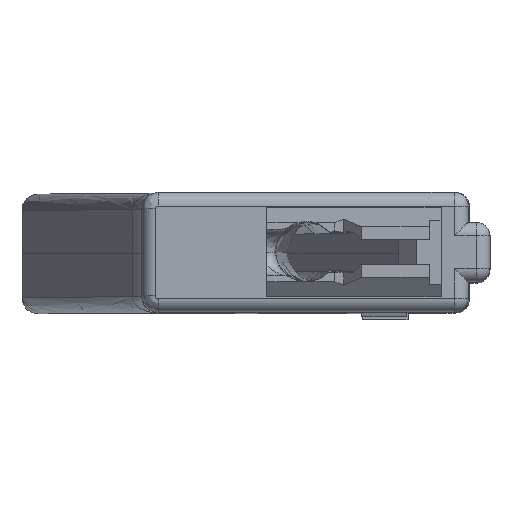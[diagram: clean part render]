
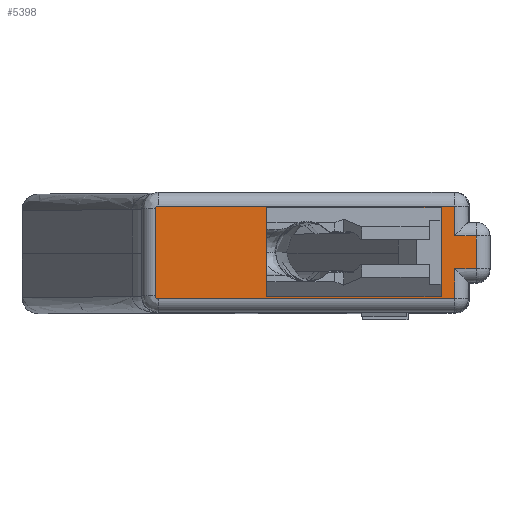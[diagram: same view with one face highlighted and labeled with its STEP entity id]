
A CAD part, top view. The second image highlights one B-rep face of the part: STEP entity #5398.
In plain terms, the highlighted planar face has unit normal (0, 0, 1).
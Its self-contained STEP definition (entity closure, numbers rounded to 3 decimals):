
#46=FACE_BOUND('',#1248,.T.);
#621=CIRCLE('',#5747,0.5);
#659=CIRCLE('',#5843,0.5);
#917=FACE_OUTER_BOUND('',#1247,.T.);
#1247=EDGE_LOOP('',(#4488,#4489,#4490,#4491,#4492,#4493,#4494,#4495,#4496,
#4497));
#1248=EDGE_LOOP('',(#4498,#4499,#4500,#4501));
#1391=LINE('',#7448,#1735);
#1399=LINE('',#7524,#1743);
#1485=LINE('',#9680,#1829);
#1491=LINE('',#9714,#1835);
#1493=LINE('',#9762,#1837);
#1528=LINE('',#10370,#1872);
#1619=LINE('',#12635,#1963);
#1620=LINE('',#12639,#1964);
#1621=LINE('',#12641,#1965);
#1622=LINE('',#12642,#1966);
#1623=LINE('',#12644,#1967);
#1624=LINE('',#12645,#1968);
#1735=VECTOR('',#6094,10.);
#1743=VECTOR('',#6106,10.);
#1829=VECTOR('',#6388,10.);
#1835=VECTOR('',#6424,10.);
#1837=VECTOR('',#6442,10.);
#1872=VECTOR('',#6573,10.);
#1963=VECTOR('',#6876,10.);
#1964=VECTOR('',#6879,2.5);
#1965=VECTOR('',#6880,10.);
#1966=VECTOR('',#6881,10.);
#1967=VECTOR('',#6882,10.);
#1968=VECTOR('',#6883,10.);
#2097=VERTEX_POINT('',#7446);
#2098=VERTEX_POINT('',#7447);
#2110=VERTEX_POINT('',#7521);
#2111=VERTEX_POINT('',#7523);
#2285=VERTEX_POINT('',#9672);
#2287=VERTEX_POINT('',#9678);
#2291=VERTEX_POINT('',#9706);
#2293=VERTEX_POINT('',#9760);
#2338=VERTEX_POINT('',#10368);
#2458=VERTEX_POINT('',#12634);
#2459=VERTEX_POINT('',#12636);
#2460=VERTEX_POINT('',#12638);
#2461=VERTEX_POINT('',#12640);
#2462=VERTEX_POINT('',#12643);
#2631=EDGE_CURVE('',#2097,#2098,#1391,.T.);
#2644=EDGE_CURVE('',#2110,#2111,#1399,.T.);
#2881=EDGE_CURVE('',#2287,#2285,#1485,.T.);
#2895=EDGE_CURVE('',#2291,#2287,#1491,.T.);
#2901=EDGE_CURVE('',#2293,#2291,#1493,.T.);
#2983=EDGE_CURVE('',#2098,#2338,#1528,.T.);
#2994=EDGE_CURVE('',#2111,#2293,#621,.T.);
#3179=EDGE_CURVE('',#2285,#2458,#1619,.T.);
#3180=EDGE_CURVE('',#2459,#2110,#659,.T.);
#3181=EDGE_CURVE('',#2459,#2460,#1620,.T.);
#3182=EDGE_CURVE('',#2461,#2460,#1621,.T.);
#3183=EDGE_CURVE('',#2458,#2461,#1622,.T.);
#3184=EDGE_CURVE('',#2338,#2462,#1623,.T.);
#3185=EDGE_CURVE('',#2462,#2097,#1624,.T.);
#4488=ORIENTED_EDGE('',*,*,#3179,.F.);
#4489=ORIENTED_EDGE('',*,*,#2881,.F.);
#4490=ORIENTED_EDGE('',*,*,#2895,.F.);
#4491=ORIENTED_EDGE('',*,*,#2901,.F.);
#4492=ORIENTED_EDGE('',*,*,#2994,.F.);
#4493=ORIENTED_EDGE('',*,*,#2644,.F.);
#4494=ORIENTED_EDGE('',*,*,#3180,.F.);
#4495=ORIENTED_EDGE('',*,*,#3181,.T.);
#4496=ORIENTED_EDGE('',*,*,#3182,.F.);
#4497=ORIENTED_EDGE('',*,*,#3183,.F.);
#4498=ORIENTED_EDGE('',*,*,#3184,.T.);
#4499=ORIENTED_EDGE('',*,*,#3185,.T.);
#4500=ORIENTED_EDGE('',*,*,#2631,.T.);
#4501=ORIENTED_EDGE('',*,*,#2983,.T.);
#5145=PLANE('',#5842);
#5398=ADVANCED_FACE('',(#917,#46),#5145,.T.);
#5747=AXIS2_PLACEMENT_3D('',#10586,#6594,#6595);
#5842=AXIS2_PLACEMENT_3D('',#12633,#6874,#6875);
#5843=AXIS2_PLACEMENT_3D('',#12637,#6877,#6878);
#6094=DIRECTION('',(0.,1.,0.));
#6106=DIRECTION('',(0.,1.,0.));
#6388=DIRECTION('',(1.,0.,0.));
#6424=DIRECTION('',(0.,-1.,0.));
#6442=DIRECTION('',(1.,0.,0.));
#6573=DIRECTION('',(1.,0.,0.));
#6594=DIRECTION('center_axis',(0.,0.,
-1.));
#6595=DIRECTION('ref_axis',(-0.707,0.707,0.));
#6874=DIRECTION('center_axis',(0.,0.,
1.));
#6875=DIRECTION('ref_axis',(1.,0.,0.));
#6876=DIRECTION('',(0.,-1.,0.));
#6877=DIRECTION('center_axis',(0.,0.,
-1.));
#6878=DIRECTION('ref_axis',(-0.707,-0.707,0.));
#6879=DIRECTION('',(1.,0.,0.));
#6880=DIRECTION('',(0.,-1.,0.));
#6881=DIRECTION('',(-1.,0.,0.));
#6882=DIRECTION('',(0.,-1.,0.));
#6883=DIRECTION('',(-1.,0.,0.));
#7446=CARTESIAN_POINT('',(359.104,-36.087,33.487));
#7447=CARTESIAN_POINT('',(359.104,-19.667,33.487));
#7448=CARTESIAN_POINT('',(359.104,-29.272,33.487));
#7521=CARTESIAN_POINT('',(338.624,-35.877,33.487));
#7523=CARTESIAN_POINT('',(338.624,-19.877,33.487));
#7524=CARTESIAN_POINT('',(338.624,-38.877,33.487));
#9672=CARTESIAN_POINT('',(397.624,-24.877,33.487));
#9678=CARTESIAN_POINT('',(393.624,-24.877,33.487));
#9680=CARTESIAN_POINT('',(392.643,-24.877,33.487));
#9706=CARTESIAN_POINT('',(393.624,-19.377,33.487));
#9714=CARTESIAN_POINT('',(393.624,-38.877,33.487));
#9760=CARTESIAN_POINT('',(339.124,-19.377,33.487));
#9762=CARTESIAN_POINT('',(372.807,-19.377,33.487));
#10368=CARTESIAN_POINT('',(391.124,-19.667,33.487));
#10370=CARTESIAN_POINT('',(374.133,-19.667,33.487));
#10586=CARTESIAN_POINT('Origin',(339.124,-19.877,33.487));
#12633=CARTESIAN_POINT('Origin',(389.163,-38.877,33.487));
#12634=CARTESIAN_POINT('',(397.624,-30.877,33.487));
#12635=CARTESIAN_POINT('',(397.624,-30.627,33.487));
#12636=CARTESIAN_POINT('',(339.124,-36.377,33.487));
#12637=CARTESIAN_POINT('Origin',(339.124,-35.877,33.487));
#12638=CARTESIAN_POINT('',(393.624,-36.377,33.487));
#12639=CARTESIAN_POINT('',(372.807,-36.377,33.487));
#12640=CARTESIAN_POINT('',(393.624,-30.877,33.487));
#12641=CARTESIAN_POINT('',(393.624,-38.877,33.487));
#12642=CARTESIAN_POINT('',(394.643,-30.877,33.487));
#12643=CARTESIAN_POINT('',(391.124,-36.087,33.487));
#12644=CARTESIAN_POINT('',(391.124,-37.482,33.487));
#12645=CARTESIAN_POINT('',(390.143,-36.087,33.487));
